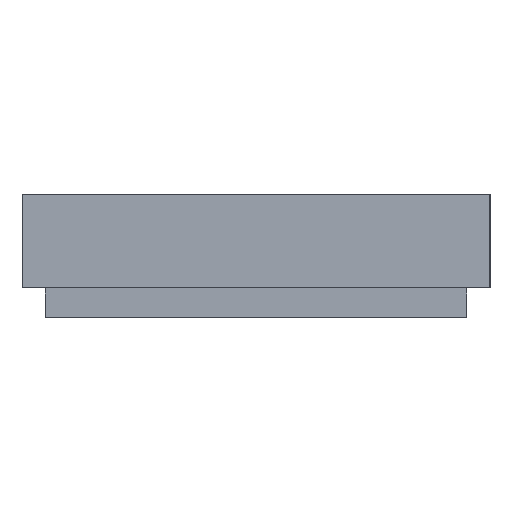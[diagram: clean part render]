
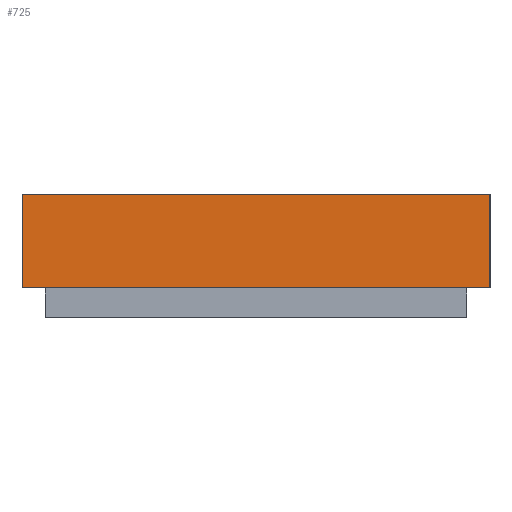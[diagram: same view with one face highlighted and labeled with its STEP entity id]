
A CAD part, left-side view. The second image highlights one B-rep face of the part: STEP entity #725.
In plain terms, the highlighted planar face has unit normal (-1, 0, 0).
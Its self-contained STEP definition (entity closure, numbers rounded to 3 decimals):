
#37 = ORIENTED_EDGE ( 'NONE', *, *, #912, .F. ) ;
#106 = VERTEX_POINT ( 'NONE', #740 ) ;
#125 = VERTEX_POINT ( 'NONE', #192 ) ;
#154 = FACE_OUTER_BOUND ( 'NONE', #3037, .T. ) ;
#192 = CARTESIAN_POINT ( 'NONE',  ( -110., 5., 0. ) ) ;
#207 = LINE ( 'NONE', #1251, #2964 ) ;
#339 = VECTOR ( 'NONE', #2377, 1000. ) ;
#358 = EDGE_CURVE ( 'NONE', #125, #709, #435, .T. ) ;
#359 = DIRECTION ( 'NONE',  ( 0., -1., 0. ) ) ;
#418 = CARTESIAN_POINT ( 'NONE',  ( -110., 5., 0. ) ) ;
#422 = CARTESIAN_POINT ( 'NONE',  ( -110., 5., 2. ) ) ;
#435 = LINE ( 'NONE', #418, #2085 ) ;
#442 = DIRECTION ( 'NONE',  ( 0., 0., -1. ) ) ;
#488 = CARTESIAN_POINT ( 'NONE',  ( -110., -2.75, 1.999 ) ) ;
#534 = CARTESIAN_POINT ( 'NONE',  ( -110., -2.75, 1.999 ) ) ;
#677 = CARTESIAN_POINT ( 'NONE',  ( -110., 2.75, 1.999 ) ) ;
#709 = VERTEX_POINT ( 'NONE', #2965 ) ;
#725 = ADVANCED_FACE ( 'NONE', ( #154 ), #1195, .F. ) ;
#740 = CARTESIAN_POINT ( 'NONE',  ( -110., -2.75, 2. ) ) ;
#848 = EDGE_CURVE ( 'NONE', #3354, #709, #207, .T. ) ;
#912 = EDGE_CURVE ( 'NONE', #1337, #1495, #1636, .T. ) ;
#960 = DIRECTION ( 'NONE',  ( 0., 0., -1. ) ) ;
#1157 = CARTESIAN_POINT ( 'NONE',  ( -110., 5., 2. ) ) ;
#1172 = CARTESIAN_POINT ( 'NONE',  ( -110., 2.75, 1.999 ) ) ;
#1195 = PLANE ( 'NONE',  #2798 ) ;
#1212 = LINE ( 'NONE', #677, #3358 ) ;
#1226 = LINE ( 'NONE', #422, #2419 ) ;
#1229 = EDGE_CURVE ( 'NONE', #2358, #3044, #2346, .T. ) ;
#1251 = CARTESIAN_POINT ( 'NONE',  ( -110., -5., 2. ) ) ;
#1256 = VECTOR ( 'NONE', #3385, 1000. ) ;
#1258 = ORIENTED_EDGE ( 'NONE', *, *, #358, .T. ) ;
#1278 = DIRECTION ( 'NONE',  ( 0., -1., 0. ) ) ;
#1337 = VERTEX_POINT ( 'NONE', #1172 ) ;
#1357 = EDGE_CURVE ( 'NONE', #2358, #125, #1226, .T. ) ;
#1437 = EDGE_CURVE ( 'NONE', #106, #3354, #2469, .T. ) ;
#1495 = VERTEX_POINT ( 'NONE', #488 ) ;
#1516 = VECTOR ( 'NONE', #359, 1000. ) ;
#1636 = LINE ( 'NONE', #3217, #1516 ) ;
#1667 = ORIENTED_EDGE ( 'NONE', *, *, #1437, .F. ) ;
#1742 = CARTESIAN_POINT ( 'NONE',  ( -110., 5., 2. ) ) ;
#2028 = DIRECTION ( 'NONE',  ( 0., 0., 1. ) ) ;
#2085 = VECTOR ( 'NONE', #3034, 1000. ) ;
#2197 = CARTESIAN_POINT ( 'NONE',  ( -110., 5., 2. ) ) ;
#2217 = EDGE_CURVE ( 'NONE', #1495, #106, #2612, .T. ) ;
#2273 = CARTESIAN_POINT ( 'NONE',  ( -110., 2.75, 2. ) ) ;
#2305 = DIRECTION ( 'NONE',  ( 0., 0., -1. ) ) ;
#2330 = CARTESIAN_POINT ( 'NONE',  ( -110., 5., 2. ) ) ;
#2346 = LINE ( 'NONE', #2330, #1256 ) ;
#2347 = ORIENTED_EDGE ( 'NONE', *, *, #1229, .F. ) ;
#2358 = VERTEX_POINT ( 'NONE', #2197 ) ;
#2377 = DIRECTION ( 'NONE',  ( 0., 0., 1. ) ) ;
#2419 = VECTOR ( 'NONE', #442, 1000. ) ;
#2427 = ORIENTED_EDGE ( 'NONE', *, *, #2483, .T. ) ;
#2469 = LINE ( 'NONE', #1157, #3019 ) ;
#2483 = EDGE_CURVE ( 'NONE', #1337, #3044, #1212, .T. ) ;
#2612 = LINE ( 'NONE', #534, #339 ) ;
#2773 = DIRECTION ( 'NONE',  ( 1., 0., 0. ) ) ;
#2798 = AXIS2_PLACEMENT_3D ( 'NONE', #1742, #2773, #960 ) ;
#2892 = CARTESIAN_POINT ( 'NONE',  ( -110., -5., 2. ) ) ;
#2964 = VECTOR ( 'NONE', #2305, 1000. ) ;
#2965 = CARTESIAN_POINT ( 'NONE',  ( -110., -5., 0. ) ) ;
#3019 = VECTOR ( 'NONE', #1278, 1000. ) ;
#3034 = DIRECTION ( 'NONE',  ( 0., -1., 0. ) ) ;
#3037 = EDGE_LOOP ( 'NONE', ( #37, #2427, #2347, #3377, #1258, #3267, #1667, #3392 ) ) ;
#3044 = VERTEX_POINT ( 'NONE', #2273 ) ;
#3217 = CARTESIAN_POINT ( 'NONE',  ( -110., 2.75, 1.999 ) ) ;
#3267 = ORIENTED_EDGE ( 'NONE', *, *, #848, .F. ) ;
#3354 = VERTEX_POINT ( 'NONE', #2892 ) ;
#3358 = VECTOR ( 'NONE', #2028, 1000. ) ;
#3377 = ORIENTED_EDGE ( 'NONE', *, *, #1357, .T. ) ;
#3385 = DIRECTION ( 'NONE',  ( 0., -1., 0. ) ) ;
#3392 = ORIENTED_EDGE ( 'NONE', *, *, #2217, .F. ) ;
